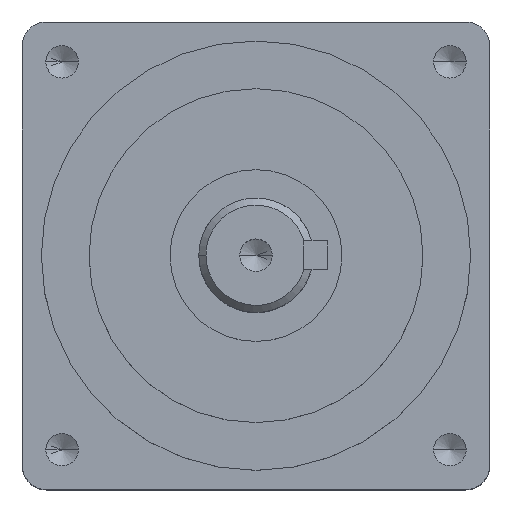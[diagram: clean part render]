
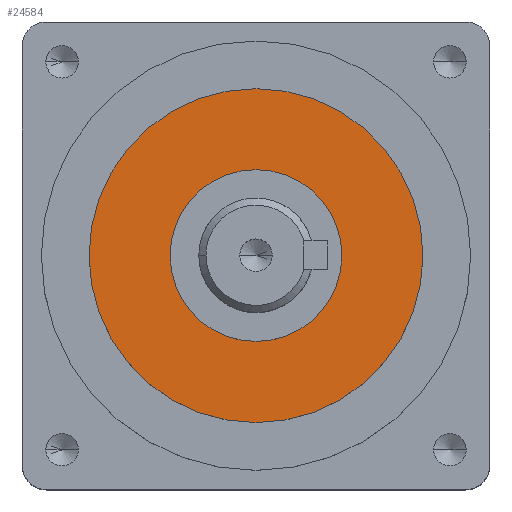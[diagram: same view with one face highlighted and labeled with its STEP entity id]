
A CAD part, top view. The second image highlights one B-rep face of the part: STEP entity #24584.
In plain terms, the highlighted planar face has unit normal (0, 0, 1).
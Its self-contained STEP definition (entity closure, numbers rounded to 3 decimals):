
#662 = AXIS2_PLACEMENT_3D ( 'NONE', #10184, #17864, #2634 ) ;
#968 = EDGE_CURVE ( 'NONE', #11607, #6020, #8875, .T. ) ;
#1594 = DIRECTION ( 'NONE',  ( -1., 0., 0. ) ) ;
#1870 = CIRCLE ( 'NONE', #23479, 18. ) ;
#2444 = VERTEX_POINT ( 'NONE', #11629 ) ;
#2634 = DIRECTION ( 'NONE',  ( 1., 0., 0. ) ) ;
#3901 = EDGE_CURVE ( 'NONE', #2444, #10407, #5951, .T. ) ;
#5663 = DIRECTION ( 'NONE',  ( 0., 0., -1. ) ) ;
#5951 = CIRCLE ( 'NONE', #15165, 35. ) ;
#6020 = VERTEX_POINT ( 'NONE', #9845 ) ;
#7842 = CARTESIAN_POINT ( 'NONE',  ( 0., 0., 15. ) ) ;
#8875 = CIRCLE ( 'NONE', #27774, 18. ) ;
#9845 = CARTESIAN_POINT ( 'NONE',  ( -18., 0., 15. ) ) ;
#10184 = CARTESIAN_POINT ( 'NONE',  ( 0., 0., 15. ) ) ;
#10250 = ORIENTED_EDGE ( 'NONE', *, *, #3901, .F. ) ;
#10377 = DIRECTION ( 'NONE',  ( -1., 0., 0. ) ) ;
#10407 = VERTEX_POINT ( 'NONE', #14945 ) ;
#11607 = VERTEX_POINT ( 'NONE', #28903 ) ;
#11629 = CARTESIAN_POINT ( 'NONE',  ( -35., 0., 15. ) ) ;
#12043 = ORIENTED_EDGE ( 'NONE', *, *, #20465, .T. ) ;
#12949 = ORIENTED_EDGE ( 'NONE', *, *, #32698, .F. ) ;
#13864 = CIRCLE ( 'NONE', #26146, 35. ) ;
#14817 = CARTESIAN_POINT ( 'NONE',  ( 0., 0., 15. ) ) ;
#14945 = CARTESIAN_POINT ( 'NONE',  ( 35., 0., 15. ) ) ;
#15165 = AXIS2_PLACEMENT_3D ( 'NONE', #20806, #5663, #23388 ) ;
#15290 = PLANE ( 'NONE',  #662 ) ;
#15637 = FACE_OUTER_BOUND ( 'NONE', #17749, .T. ) ;
#16839 = DIRECTION ( 'NONE',  ( 0., 0., -1. ) ) ;
#17407 = DIRECTION ( 'NONE',  ( -1., 0., 0. ) ) ;
#17749 = EDGE_LOOP ( 'NONE', ( #10250, #12949 ) ) ;
#17864 = DIRECTION ( 'NONE',  ( 0., 0., 1. ) ) ;
#18052 = ORIENTED_EDGE ( 'NONE', *, *, #968, .T. ) ;
#20465 = EDGE_CURVE ( 'NONE', #6020, #11607, #1870, .T. ) ;
#20806 = CARTESIAN_POINT ( 'NONE',  ( 0., 0., 15. ) ) ;
#22365 = FACE_BOUND ( 'NONE', #31414, .T. ) ;
#23388 = DIRECTION ( 'NONE',  ( -1., 0., 0. ) ) ;
#23479 = AXIS2_PLACEMENT_3D ( 'NONE', #31989, #16839, #1594 ) ;
#24584 = ADVANCED_FACE ( 'NONE', ( #22365, #15637 ), #15290, .T. ) ;
#25556 = DIRECTION ( 'NONE',  ( 0., 0., -1. ) ) ;
#26146 = AXIS2_PLACEMENT_3D ( 'NONE', #7842, #25556, #10377 ) ;
#27774 = AXIS2_PLACEMENT_3D ( 'NONE', #14817, #32573, #17407 ) ;
#28903 = CARTESIAN_POINT ( 'NONE',  ( 18., 0., 15. ) ) ;
#31414 = EDGE_LOOP ( 'NONE', ( #12043, #18052 ) ) ;
#31989 = CARTESIAN_POINT ( 'NONE',  ( 0., 0., 15. ) ) ;
#32573 = DIRECTION ( 'NONE',  ( 0., 0., -1. ) ) ;
#32698 = EDGE_CURVE ( 'NONE', #10407, #2444, #13864, .T. ) ;
